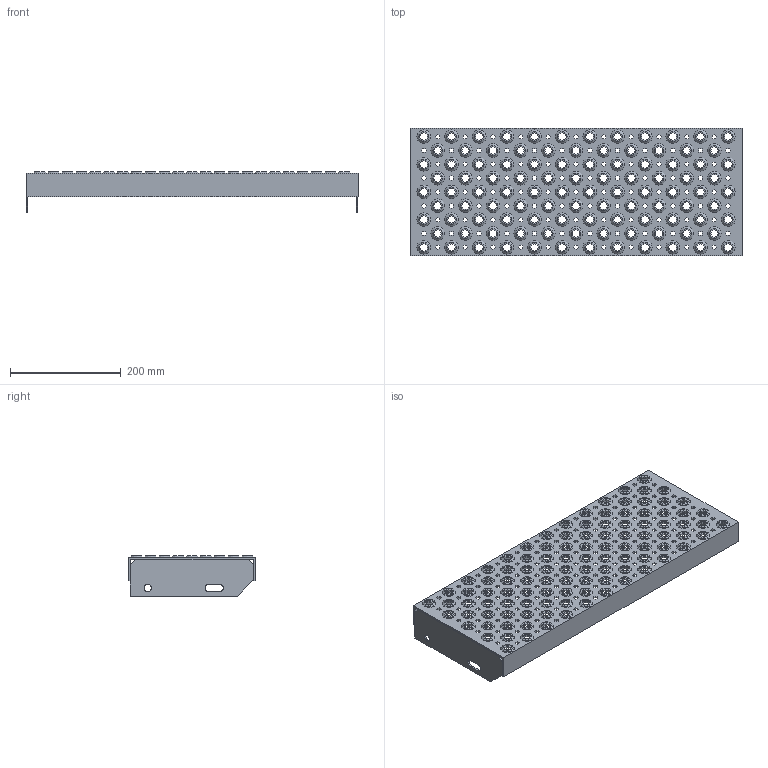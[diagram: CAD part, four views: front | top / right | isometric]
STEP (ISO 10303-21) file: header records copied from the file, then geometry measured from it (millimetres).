
FILE_DESCRIPTION(('Open CASCADE Model'),'2;1');
FILE_NAME('Open CASCADE Shape Model','2020-06-30T11:00:38',('Author'),( 'Open CASCADE'),'Open CASCADE STEP processor 7.2','Open CASCADE 7.2' ,'Unknown');
FILE_SCHEMA(('AUTOMOTIVE_DESIGN { 1 0 10303 214 1 1 1 1 }'));
Length unit declared in the file: millimetre
Products named in the file (4381): Open CASCADE STEP translator 7.2 1; Open CASCADE STEP translator 7.2 2; Open CASCADE STEP translator 7.2 3; Open CASCADE STEP translator 7.2 3.1; Open CASCADE STEP translator 7.2 3.2; Open CASCADE STEP translator 7.2 3.3; Open CASCADE STEP translator 7.2 3.4; Open CASCADE STEP translator 7.2 3.5; Open CASCADE STEP translator 7.2 3.6; Open CASCADE STEP translator 7.2 3.7; Open CASCADE STEP translator 7.2 3.8; Open CASCADE STEP translator 7.2 3.9; Open CASCADE STEP translator 7.2 3.10; Open CASCADE STEP translator 7.2 3.11; Open CASCADE STEP translator 7.2 3.12; Open CASCADE STEP translator 7.2 3.13; Open CASCADE STEP translator 7.2 3.14; Open CASCADE STEP translator 7.2 3.15; Open CASCADE STEP translator 7.2 3.16; Open CASCADE STEP translator 7.2 3.17; Open CASCADE STEP translator 7.2 3.18; Open CASCADE STEP translator 7.2 3.19; Open CASCADE STEP translator 7.2 3.20; Open CASCADE STEP translator 7.2 3.21; Open CASCADE STEP translator 7.2 3.22; Open CASCADE STEP translator 7.2 3.23; Open CASCADE STEP translator 7.2 3.24; Open CASCADE STEP translator 7.2 3.25; Open CASCADE STEP translator 7.2 3.26; Open CASCADE STEP translator 7.2 3.27; Open CASCADE STEP translator 7.2 3.28; Open CASCADE STEP translator 7.2 3.29; Open CASCADE STEP translator 7.2 3.30; Open CASCADE STEP translator 7.2 3.31; Open CASCADE STEP translator 7.2 3.32; Open CASCADE STEP translator 7.2 3.33; Open CASCADE STEP translator 7.2 3.34; Open CASCADE STEP translator 7.2 3.35; Open CASCADE STEP translator 7.2 3.36; Open CASCADE STEP translator 7.2 3.37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
Assembly tree (4378 placements, depth 2):
  Open CASCADE STEP translator 7.2 1
  Open CASCADE STEP translator 7.2 2
  Open CASCADE STEP translator 7.2 3
    Open CASCADE STEP translator 7.2 3.1
    Open CASCADE STEP translator 7.2 3.2
    Open CASCADE STEP translator 7.2 3.3
    Open CASCADE STEP translator 7.2 3.4
    Open CASCADE STEP translator 7.2 3.5
    Open CASCADE STEP translator 7.2 3.6
    Open CASCADE STEP translator 7.2 3.7
    Open CASCADE STEP translator 7.2 3.8
    Open CASCADE STEP translator 7.2 3.9
    Open CASCADE STEP translator 7.2 3.10
    Open CASCADE STEP translator 7.2 3.11
    Open CASCADE STEP translator 7.2 3.12
    Open CASCADE STEP translator 7.2 3.13
    Open CASCADE STEP translator 7.2 3.14
    Open CASCADE STEP translator 7.2 3.15
    Open CASCADE STEP translator 7.2 3.16
    Open CASCADE STEP translator 7.2 3.17
    Open CASCADE STEP translator 7.2 3.18
    Open CASCADE STEP translator 7.2 3.19
    Open CASCADE STEP translator 7.2 3.20
    Open CASCADE STEP translator 7.2 3.21
    Open CASCADE STEP translator 7.2 3.22
    Open CASCADE STEP translator 7.2 3.23
    Open CASCADE STEP translator 7.2 3.24
    Open CASCADE STEP translator 7.2 3.25
    Open CASCADE STEP translator 7.2 3.26
    Open CASCADE STEP translator 7.2 3.27
    Open CASCADE STEP translator 7.2 3.28
    Open CASCADE STEP translator 7.2 3.29
    Open CASCADE STEP translator 7.2 3.30
    Open CASCADE STEP translator 7.2 3.31
    Open CASCADE STEP translator 7.2 3.32
    Open CASCADE STEP translator 7.2 3.33
    Open CASCADE STEP translator 7.2 3.34
    Open CASCADE STEP translator 7.2 3.35
    Open CASCADE STEP translator 7.2 3.36
    Open CASCADE STEP translator 7.2 3.37
    Open CASCADE STEP translator 7.2 3.38
    Open CASCADE STEP translator 7.2 3.39
    Open CASCADE STEP translator 7.2 3.40
    Open CASCADE STEP translator 7.2 3.41
    Open CASCADE STEP translator 7.2 3.42
    Open CASCADE STEP translator 7.2 3.43
    Open CASCADE STEP translator 7.2 3.44
    Open CASCADE STEP translator 7.2 3.45
    Open CASCADE STEP translator 7.2 3.46
    Open CASCADE STEP translator 7.2 3.47
    Open CASCADE STEP translator 7.2 3.48
    Open CASCADE STEP translator 7.2 3.49
    Open CASCADE STEP translator 7.2 3.50
    Open CASCADE STEP translator 7.2 3.51
    Open CASCADE STEP translator 7.2 3.52
    Open CASCADE STEP translator 7.2 3.53
    Open CASCADE STEP translator 7.2 3.54
    Open CASCADE STEP translator 7.2 3.55
    Open CASCADE STEP translator 7.2 3.56
    Open CASCADE STEP translator 7.2 3.57
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Bounding box: 600 x 230 x 73 mm (x, y, z)
Volume: 83595.2 mm3; surface area: 497722.6 mm2
Topology: 2 solids, 4380 shells, 4406 faces, 25080 edges, 25056 vertices
Faces by surface type: plane 4400, cylinder 6
Full cylindrical faces by diameter (mm): 13 x2
Entity records: 500764 total; most frequent: CARTESIAN_POINT 84121, DIRECTION 67786, LINE 50184, VECTOR 50184, ORIENTED_EDGE 25152, PCURVE 25152, DEFINITIONAL_REPRESENTATION 25152, EDGE_CURVE 25080
